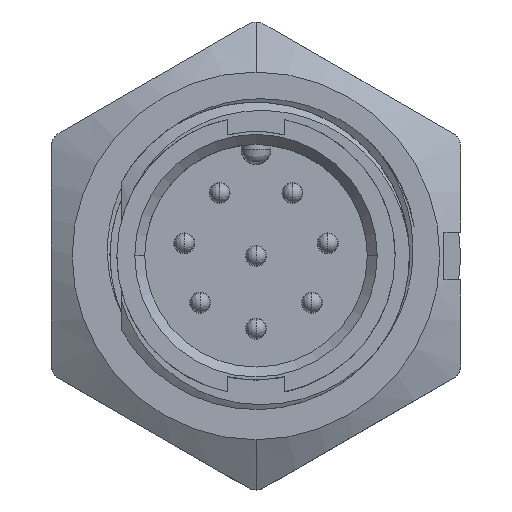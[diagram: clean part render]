
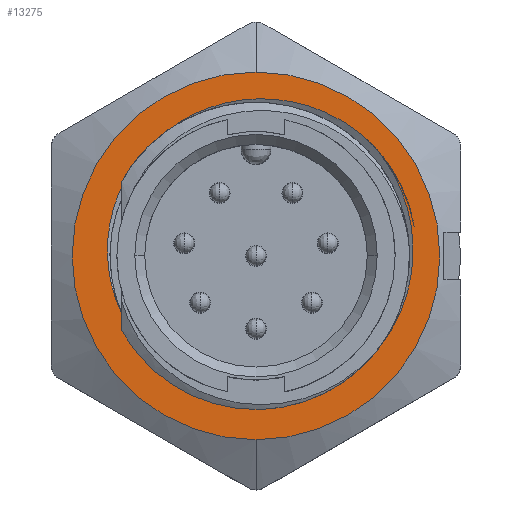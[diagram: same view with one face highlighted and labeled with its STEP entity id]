
A CAD part, top view. The second image highlights one B-rep face of the part: STEP entity #13275.
In plain terms, the highlighted planar face has unit normal (0, 0, 1).
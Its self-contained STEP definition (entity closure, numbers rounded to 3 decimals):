
#143 = FACE_BOUND ( 'NONE', #8780, .T. ) ;
#222 = VERTEX_POINT ( 'NONE', #11596 ) ;
#274 = CARTESIAN_POINT ( 'NONE',  ( 2.14, 7.737, -6.1 ) ) ;
#275 = CARTESIAN_POINT ( 'NONE',  ( -3.465, -6.489, -6.1 ) ) ;
#464 = CARTESIAN_POINT ( 'NONE',  ( 3.618, -6.74, -6.1 ) ) ;
#569 = CARTESIAN_POINT ( 'NONE',  ( 5.798, 5.667, -6.1 ) ) ;
#649 = AXIS2_PLACEMENT_3D ( 'NONE', #6477, #4483, #4542 ) ;
#1039 = B_SPLINE_CURVE_WITH_KNOTS ( 'NONE', 3,
 ( #6537, #7448, #11588, #274, #1185, #12737, #3396, #7645, #2495, #1249, #11783, #3334, #9544, #5630, #2426, #8523, #12676, #7587 ),
 .UNSPECIFIED., .F., .F.,
 ( 4, 2, 2, 2, 2, 2, 2, 2, 4 ),
 ( 0., 0.125, 0.25, 0.375, 0.5, 0.625, 0.75, 0.875, 1. ),
 .UNSPECIFIED. ) ;
#1185 = CARTESIAN_POINT ( 'NONE',  ( 1.237, 7.899, -6.1 ) ) ;
#1233 = VERTEX_POINT ( 'NONE', #4718 ) ;
#1249 = CARTESIAN_POINT ( 'NONE',  ( -5.289, 5.656, -6.1 ) ) ;
#1418 = CARTESIAN_POINT ( 'NONE',  ( 5.469, 5.983, -6.1 ) ) ;
#1454 = CARTESIAN_POINT ( 'NONE',  ( -1.397, -7.328, -6.1 ) ) ;
#1465 = CARTESIAN_POINT ( 'NONE',  ( -5.963, -4.299, -6.1 ) ) ;
#1489 = CARTESIAN_POINT ( 'NONE',  ( 5.365, 6.07, -6.1 ) ) ;
#1496 = EDGE_CURVE ( 'NONE', #4916, #2143, #8943, .T. ) ;
#1589 = ORIENTED_EDGE ( 'NONE', *, *, #1496, .T. ) ;
#1931 = ORIENTED_EDGE ( 'NONE', *, *, #4442, .F. ) ;
#2143 = VERTEX_POINT ( 'NONE', #7608 ) ;
#2147 = CARTESIAN_POINT ( 'NONE',  ( 7.786, -1.344, -6.1 ) ) ;
#2426 = CARTESIAN_POINT ( 'NONE',  ( -7.521, 0.176, -6.1 ) ) ;
#2482 = CARTESIAN_POINT ( 'NONE',  ( -2.216, -7.089, -6.1 ) ) ;
#2495 = CARTESIAN_POINT ( 'NONE',  ( -3.918, 6.752, -6.1 ) ) ;
#2594 = CARTESIAN_POINT ( 'NONE',  ( 0., 0., -6.1 ) ) ;
#3334 = CARTESIAN_POINT ( 'NONE',  ( -6.791, 3.521, -6.1 ) ) ;
#3396 = CARTESIAN_POINT ( 'NONE',  ( -1.455, 7.766, -6.1 ) ) ;
#3463 = CARTESIAN_POINT ( 'NONE',  ( -5.32, -5.077, -6.1 ) ) ;
#3586 = CARTESIAN_POINT ( 'NONE',  ( 2.813, -7.078, -6.1 ) ) ;
#3655 = CARTESIAN_POINT ( 'NONE',  ( 5.077, -5.803, -6.1 ) ) ;
#4071 = CARTESIAN_POINT ( 'NONE',  ( 7.879, 1.35, -6.1 ) ) ;
#4206 = CARTESIAN_POINT ( 'NONE',  ( 5.992, 5.451, -6.1 ) ) ;
#4273 = CARTESIAN_POINT ( 'NONE',  ( 6.808, -3.822, -6.1 ) ) ;
#4290 = FACE_OUTER_BOUND ( 'NONE', #7369, .T. ) ;
#4414 = CARTESIAN_POINT ( 'NONE',  ( -4.84, -5.549, -6.1 ) ) ;
#4442 = EDGE_CURVE ( 'NONE', #222, #2143, #4973, .T. ) ;
#4483 = DIRECTION ( 'NONE',  ( 0., 0., 1. ) ) ;
#4484 = CARTESIAN_POINT ( 'NONE',  ( -3.75, -6.322, -6.1 ) ) ;
#4542 = DIRECTION ( 'NONE',  ( 1., 0., 0. ) ) ;
#4718 = CARTESIAN_POINT ( 'NONE',  ( -6.682, -3.063, -6.1 ) ) ;
#4735 = CARTESIAN_POINT ( 'NONE',  ( -2.967, -6.725, -6.1 ) ) ;
#4767 = CARTESIAN_POINT ( 'NONE',  ( 5.992, 5.451, -6.1 ) ) ;
#4850 = ORIENTED_EDGE ( 'NONE', *, *, #13357, .F. ) ;
#4916 = VERTEX_POINT ( 'NONE', #9319 ) ;
#4973 = B_SPLINE_CURVE_WITH_KNOTS ( 'NONE', 3,
 ( #4735, #2482, #1454, #5618, #9860, #3586, #464, #3655, #7837, #4273, #12596, #2147, #8252, #4071, #9464, #13409, #8380, #4206 ),
 .UNSPECIFIED., .F., .F.,
 ( 4, 2, 2, 2, 2, 2, 2, 2, 4 ),
 ( 0., 0.125, 0.25, 0.375, 0.5, 0.625, 0.75, 0.875, 1. ),
 .UNSPECIFIED. ) ;
#5618 = CARTESIAN_POINT ( 'NONE',  ( 0.283, -7.518, -6.1 ) ) ;
#5630 = CARTESIAN_POINT ( 'NONE',  ( -7.483, 1.038, -6.1 ) ) ;
#5631 = CARTESIAN_POINT ( 'NONE',  ( -6.682, -3.063, -6.1 ) ) ;
#6441 = B_SPLINE_CURVE_WITH_KNOTS ( 'NONE', 3,
 ( #6676, #11654, #275, #4484, #7713, #8660, #10832, #4414, #3463, #12807, #7646, #8719, #1465, #6606, #8786, #5631 ),
 .UNSPECIFIED., .F., .F.,
 ( 4, 1, 2, 2, 2, 1, 2, 2, 4 ),
 ( 0., 0.125, 0.188, 0.25, 0.5, 0.625, 0.688, 0.75, 1. ),
 .UNSPECIFIED. ) ;
#6477 = CARTESIAN_POINT ( 'NONE',  ( 0., 0., -6.1 ) ) ;
#6519 = CARTESIAN_POINT ( 'NONE',  ( 0., 0., -6.1 ) ) ;
#6537 = CARTESIAN_POINT ( 'NONE',  ( 5.365, 6.07, -6.1 ) ) ;
#6601 = ORIENTED_EDGE ( 'NONE', *, *, #7415, .F. ) ;
#6606 = CARTESIAN_POINT ( 'NONE',  ( -6.279, -3.846, -6.1 ) ) ;
#6676 = CARTESIAN_POINT ( 'NONE',  ( -2.967, -6.725, -6.1 ) ) ;
#6767 = CARTESIAN_POINT ( 'NONE',  ( 5.578, 5.883, -6.1 ) ) ;
#6770 = DIRECTION ( 'NONE',  ( 0., 0., -1. ) ) ;
#7033 = VERTEX_POINT ( 'NONE', #10002 ) ;
#7369 = EDGE_LOOP ( 'NONE', ( #6601, #7921 ) ) ;
#7415 = EDGE_CURVE ( 'NONE', #9264, #7033, #11897, .T. ) ;
#7448 = CARTESIAN_POINT ( 'NONE',  ( 4.655, 6.655, -6.1 ) ) ;
#7587 = CARTESIAN_POINT ( 'NONE',  ( -6.682, -3.063, -6.1 ) ) ;
#7608 = CARTESIAN_POINT ( 'NONE',  ( 5.992, 5.451, -6.1 ) ) ;
#7645 = CARTESIAN_POINT ( 'NONE',  ( -3.134, 7.185, -6.1 ) ) ;
#7646 = CARTESIAN_POINT ( 'NONE',  ( -5.759, -4.569, -6.1 ) ) ;
#7713 = CARTESIAN_POINT ( 'NONE',  ( -3.938, -6.207, -6.1 ) ) ;
#7837 = CARTESIAN_POINT ( 'NONE',  ( 5.732, -5.207, -6.1 ) ) ;
#7921 = ORIENTED_EDGE ( 'NONE', *, *, #12607, .F. ) ;
#8252 = CARTESIAN_POINT ( 'NONE',  ( 7.921, -0.448, -6.1 ) ) ;
#8380 = CARTESIAN_POINT ( 'NONE',  ( 6.588, 4.749, -6.1 ) ) ;
#8523 = CARTESIAN_POINT ( 'NONE',  ( -7.308, -1.502, -6.1 ) ) ;
#8660 = CARTESIAN_POINT ( 'NONE',  ( -4.029, -6.148, -6.1 ) ) ;
#8701 = DIRECTION ( 'NONE',  ( 0., 0., -1. ) ) ;
#8719 = CARTESIAN_POINT ( 'NONE',  ( -5.895, -4.391, -6.1 ) ) ;
#8733 = CARTESIAN_POINT ( 'NONE',  ( 0., -9.25, -6.1 ) ) ;
#8780 = EDGE_LOOP ( 'NONE', ( #8896, #4850, #1589, #1931 ) ) ;
#8786 = CARTESIAN_POINT ( 'NONE',  ( -6.497, -3.464, -6.1 ) ) ;
#8896 = ORIENTED_EDGE ( 'NONE', *, *, #12895, .T. ) ;
#8943 = B_SPLINE_CURVE_WITH_KNOTS ( 'NONE', 3,
 ( #1489, #1418, #6767, #569, #11807, #4767 ),
 .UNSPECIFIED., .F., .F.,
 ( 4, 2, 4 ),
 ( 0., 0.5, 1. ),
 .UNSPECIFIED. ) ;
#9264 = VERTEX_POINT ( 'NONE', #8733 ) ;
#9319 = CARTESIAN_POINT ( 'NONE',  ( 5.365, 6.07, -6.1 ) ) ;
#9464 = CARTESIAN_POINT ( 'NONE',  ( 7.706, 2.251, -6.1 ) ) ;
#9544 = CARTESIAN_POINT ( 'NONE',  ( -7.119, 2.711, -6.1 ) ) ;
#9860 = CARTESIAN_POINT ( 'NONE',  ( 1.145, -7.467, -6.1 ) ) ;
#10002 = CARTESIAN_POINT ( 'NONE',  ( 0., 9.25, -6.1 ) ) ;
#10495 = AXIS2_PLACEMENT_3D ( 'NONE', #6519, #8701, #10543 ) ;
#10543 = DIRECTION ( 'NONE',  ( -1., 0., 0. ) ) ;
#10831 = PLANE ( 'NONE',  #649 ) ;
#10832 = CARTESIAN_POINT ( 'NONE',  ( -4.494, -5.834, -6.1 ) ) ;
#10920 = DIRECTION ( 'NONE',  ( -1., 0., 0. ) ) ;
#11588 = CARTESIAN_POINT ( 'NONE',  ( 3.849, 7.115, -6.1 ) ) ;
#11596 = CARTESIAN_POINT ( 'NONE',  ( -2.967, -6.725, -6.1 ) ) ;
#11654 = CARTESIAN_POINT ( 'NONE',  ( -3.169, -6.635, -6.1 ) ) ;
#11783 = CARTESIAN_POINT ( 'NONE',  ( -5.876, 4.994, -6.1 ) ) ;
#11807 = CARTESIAN_POINT ( 'NONE',  ( 5.899, 5.559, -6.1 ) ) ;
#11897 = CIRCLE ( 'NONE', #13191, 9.25 ) ;
#12491 = CIRCLE ( 'NONE', #10495, 9.25 ) ;
#12596 = CARTESIAN_POINT ( 'NONE',  ( 7.228, -3.031, -6.1 ) ) ;
#12607 = EDGE_CURVE ( 'NONE', #7033, #9264, #12491, .T. ) ;
#12676 = CARTESIAN_POINT ( 'NONE',  ( -7.058, -2.317, -6.1 ) ) ;
#12737 = CARTESIAN_POINT ( 'NONE',  ( -0.561, 7.913, -6.1 ) ) ;
#12807 = CARTESIAN_POINT ( 'NONE',  ( -5.548, -4.83, -6.1 ) ) ;
#12895 = EDGE_CURVE ( 'NONE', #222, #1233, #6441, .T. ) ;
#13191 = AXIS2_PLACEMENT_3D ( 'NONE', #2594, #6770, #10920 ) ;
#13275 = ADVANCED_FACE ( 'NONE', ( #143, #4290 ), #10831, .T. ) ;
#13357 = EDGE_CURVE ( 'NONE', #4916, #1233, #1039, .T. ) ;
#13409 = CARTESIAN_POINT ( 'NONE',  ( 7.06, 3.95, -6.1 ) ) ;
